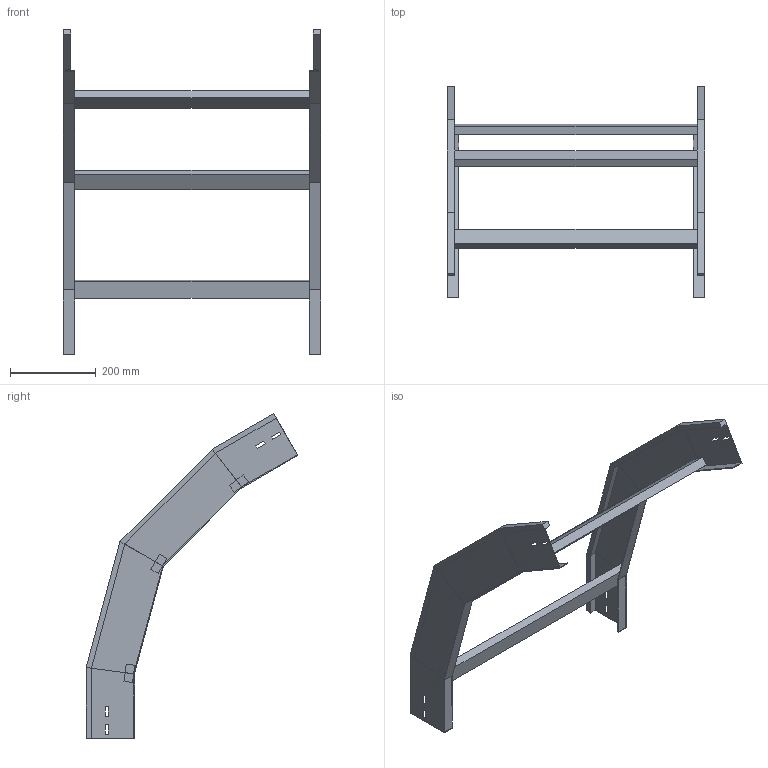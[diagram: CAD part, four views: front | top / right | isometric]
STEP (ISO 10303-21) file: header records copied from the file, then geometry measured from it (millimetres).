
FILE_DESCRIPTION (( 'STEP AP214' ), '1' );
FILE_NAME ('41B5J600.step', '2025-02-21T14:57:53', ( '' ), ( '' ), 'SwSTEP 2.0', 'SolidWorks 2023', '' );
FILE_SCHEMA (( 'AUTOMOTIVE_DESIGN' ));
Length unit declared in the file: millimetre
Products named in the file (3): 41B5J600; TRAVERSINO_600; LONGH.DISCESA_60°_H112.5_R500
Assembly tree (5 placements, depth 2):
  41B5J600
    LONGH.DISCESA_60°_H112.5_R500  x2
    TRAVERSINO_600  x3
Bounding box: 600 x 492.58 x 755.74 mm (x, y, z)
Volume: 2280281.3 mm3; surface area: 765057.2 mm2
Topology: 5 solids, 5 shells, 118 faces, 276 edges, 168 vertices
Faces by surface type: plane 118
Entity records: 1672 total; most frequent: CARTESIAN_POINT 276, ORIENTED_EDGE 264, DIRECTION 260, EDGE_CURVE 132, VECTOR 132, LINE 132, VERTEX_POINT 80, EDGE_LOOP 64
